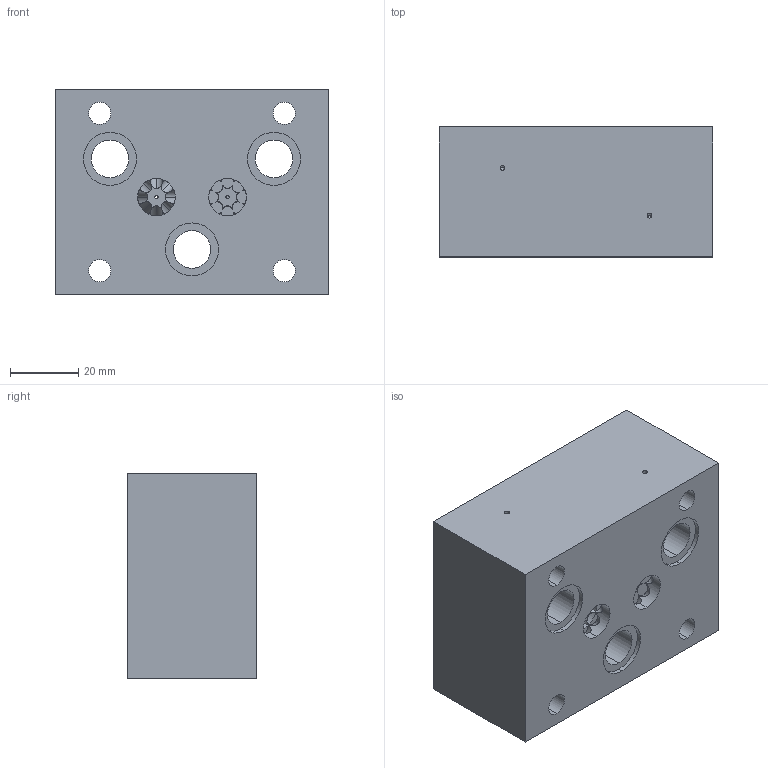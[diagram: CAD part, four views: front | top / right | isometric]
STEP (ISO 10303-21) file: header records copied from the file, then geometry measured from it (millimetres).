
FILE_DESCRIPTION (( 'STEP AP214' ), '1' );
FILE_NAME ('ARVB10.STEP', '2017-04-11T09:36:07', ( '' ), ( '' ), 'SwSTEP 2.0', 'SolidWorks 2016', '' );
FILE_SCHEMA (( 'AUTOMOTIVE_DESIGN' ));
Length unit declared in the file: millimetre
Products named in the file (1): ARVB10
Bounding box: 80 x 38 x 60 mm (x, y, z)
Volume: 161518.7 mm3; surface area: 29766.4 mm2
Topology: 1 solids, 3 shells, 191 faces, 486 edges, 313 vertices
Faces by surface type: cylinder 103, plane 48, torus 26, cone 14
Entity records: 8465 total; most frequent: CARTESIAN_POINT 2205, ORIENTED_EDGE 964, DIRECTION 839, EDGE_CURVE 482, AXIS2_PLACEMENT_3D 367, VERTEX_POINT 313, EDGE_LOOP 227, FACE_OUTER_BOUND 191
